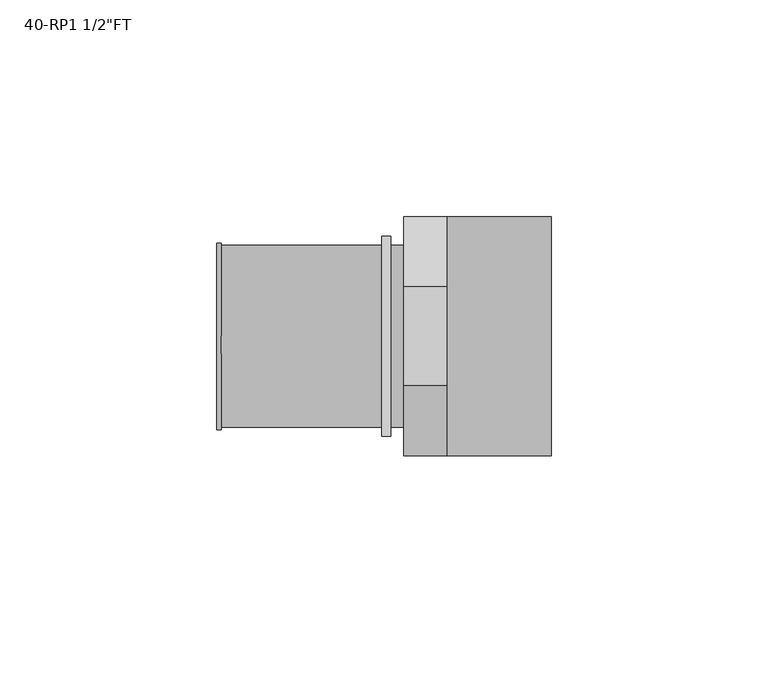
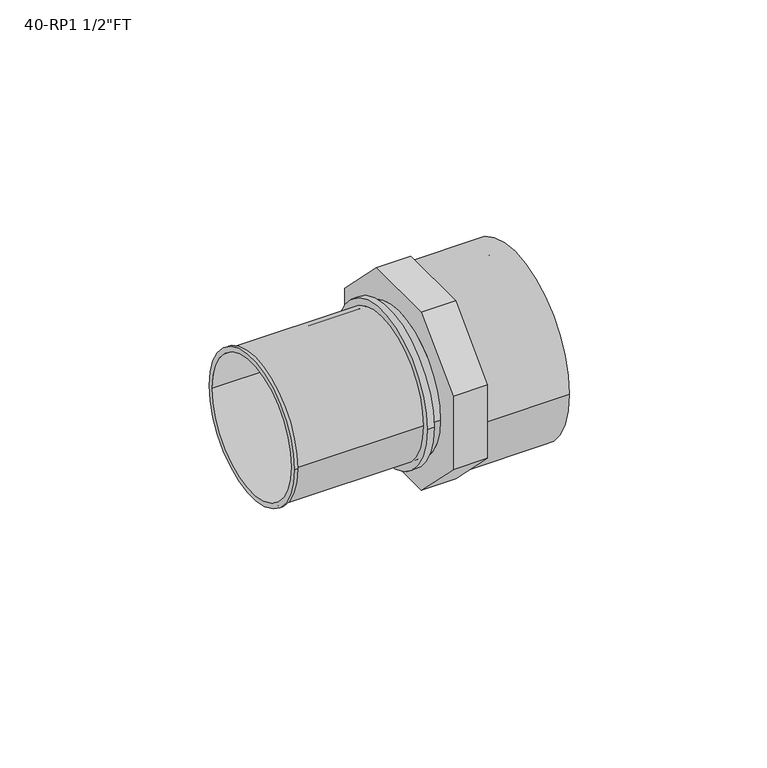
"""IFC4 building model written with IfcOpenShell, lengths in millimetres: pipe fitting geometry."""

from ifc_helpers import new_model, si_unit, point, frame, origin, origin_2d, place, context, project, spatial, polyline, circle_curve, trimmed, segment, composite_curve, outline, extrude, source, transform, mapped, element, save
from ifc_brep_helpers import plane_surface, cylinder_surface, revolved_surface, advanced_brep


def pipe_fitting_9d20a31b(model_context):
    return source(origin(), model_context, "Body", "SolidModel", [
        advanced_brep(
        [(-8.0, -21.0, 0.0), (-8.0, 21.0, 0.0), (8.0, -21.0, 0.0), (8.0, 21.0, 0.0), (-5.0, -21.0, 0.0), (-5.0, 21.0, 0.0), (5.0, 21.0, 0.0), (5.0, -21.0, 0.0), (-5.0, -27.5, 11.390873), (-5.0, -11.390873, 27.5), (-5.0, 11.390873, 27.5), (-5.0, 27.5, 11.390873), (-5.0, 27.5, -11.390873), (-5.0, 11.390873, -27.5), (-5.0, -11.390873, -27.5), (-5.0, -27.5, -11.390873), (5.0, -27.5, 11.390873), (5.0, -27.5, -11.390873), (5.0, -11.390873, -27.5), (5.0, 11.390873, -27.5), (5.0, 27.5, -11.390873), (5.0, 27.5, 11.390873), (5.0, 11.390873, 27.5), (5.0, -11.390873, 27.5)],
        [
            (0, 1, circle_curve(frame((-8.0, 0.0, 0.0), z_axis=(-1.0, 0.0, 0.0), x_axis=(0.0, 1.0, 0.0)), 21.0)),
            (1, 0, circle_curve(frame((-8.0, 0.0, 0.0), z_axis=(-1.0, 0.0, 0.0), x_axis=(0.0, 1.0, 0.0)), 21.0)),
            (2, 3, circle_curve(frame((8.0, 0.0, 0.0), z_axis=(1.0, 0.0, 0.0), x_axis=(0.0, 1.0, 0.0)), 21.0)),
            (3, 2, circle_curve(frame((8.0, 0.0, 0.0), z_axis=(1.0, 0.0, 0.0), x_axis=(0.0, 1.0, 0.0)), 21.0)),
            (0, 4),
            (4, 5, circle_curve(frame((-5.0, 0.0, 0.0), z_axis=(-1.0, 0.0, 0.0), x_axis=(0.0, 1.0, 0.0)), 21.0)),
            (5, 1),
            (3, 6),
            (6, 7, circle_curve(frame((5.0, 0.0, 0.0), z_axis=(1.0, 0.0, 0.0), x_axis=(0.0, 1.0, 0.0)), 21.0)),
            (7, 2),
            (5, 4, circle_curve(frame((-5.0, 0.0, 0.0), z_axis=(-1.0, 0.0, 0.0), x_axis=(0.0, 1.0, 0.0)), 21.0)),
            (7, 6, circle_curve(frame((5.0, 0.0, 0.0), z_axis=(1.0, 0.0, 0.0), x_axis=(0.0, 1.0, 0.0)), 21.0)),
            (8, 9),
            (9, 10),
            (10, 11),
            (11, 12),
            (12, 13),
            (13, 14),
            (14, 15),
            (15, 8),
            (16, 17),
            (17, 18),
            (18, 19),
            (19, 20),
            (20, 21),
            (21, 22),
            (22, 23),
            (23, 16),
            (8, 16),
            (23, 9),
            (22, 10),
            (21, 11),
            (20, 12),
            (19, 13),
            (18, 14),
            (17, 15),
        ],
        [
            plane_surface(frame((-8.0, 0.0, 0.0), z_axis=(-1.0, 0.0, 0.0), x_axis=(0.0, 0.0, 1.0))),
            plane_surface(frame((8.0, 0.0, 0.0), z_axis=(1.0, 0.0, 0.0), x_axis=(0.0, 0.0, 1.0))),
            cylinder_surface(frame((-8.0, 0.0, 0.0), z_axis=(-1.0, 0.0, 0.0), x_axis=(0.0, 1.0, 0.0)), 21.0),
            plane_surface(frame((-5.0, 0.0, 0.0), z_axis=(-1.0, 0.0, 0.0), x_axis=(0.0, 0.0, 1.0))),
            plane_surface(frame((5.0, 0.0, 0.0), z_axis=(1.0, 0.0, 0.0), x_axis=(0.0, 0.0, 1.0))),
            plane_surface(frame((-5.0, -27.5, 11.390873), z_axis=(0.0, -0.7071067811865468, 0.7071067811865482), x_axis=(1.0, 0.0, 0.0))),
            plane_surface(frame((-5.0, -11.390873, 27.5), z_axis=(0.0, 0.0, 1.0), x_axis=(1.0, 0.0, 0.0))),
            plane_surface(frame((-5.0, 11.390873, 27.5), z_axis=(0.0, 0.7071067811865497, 0.7071067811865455), x_axis=(1.0, 0.0, 0.0))),
            plane_surface(frame((-5.0, 27.5, 11.390873), z_axis=(0.0, 1.0, 0.0), x_axis=(1.0, 0.0, 0.0))),
            plane_surface(frame((-5.0, 27.5, -11.390873), z_axis=(0.0, 0.7071067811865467, -0.7071067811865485), x_axis=(1.0, 0.0, 0.0))),
            plane_surface(frame((-5.0, 11.390873, -27.5), z_axis=(0.0, 0.0, -1.0), x_axis=(1.0, 0.0, 0.0))),
            plane_surface(frame((-5.0, -11.390873, -27.5), z_axis=(0.0, -0.7071067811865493, -0.7071067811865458), x_axis=(1.0, 0.0, 0.0))),
            plane_surface(frame((-5.0, -27.5, -11.390873), z_axis=(0.0, -1.0, 0.0), x_axis=(1.0, 0.0, 0.0))),
        ],
        [
            (0, [[1, 2]]),
            (1, [[3, 4]]),
            (2, [[-1, 5, 6, 7]]),
            (2, [[-4, 8, 9, 10]]),
            (2, [[-2, -7, 11, -5]]),
            (2, [[-3, -10, 12, -8]]),
            (3, [[13, 14, 15, 16, 17, 18, 19, 20], [-6, -11]]),
            (4, [[21, 22, 23, 24, 25, 26, 27, 28], [-9, -12]]),
            (5, [[-13, 29, -28, 30]]),
            (6, [[-14, -30, -27, 31]]),
            (7, [[-15, -31, -26, 32]]),
            (8, [[-16, -32, -25, 33]]),
            (9, [[-17, -33, -24, 34]]),
            (10, [[-18, -34, -23, 35]]),
            (11, [[-19, -35, -22, 36]]),
            (12, [[-20, -36, -21, -29]]),
        ],
    ),
        advanced_brep(
        [(-48.0, -21.5, 0.0), (-48.0, 21.5, 0.0), (-48.0, -20.0, 0.0), (-48.0, 20.0, 0.0), (-10.0, -21.0, 0.0), (-10.0, 21.0, 0.0), (-10.0, -20.0, 0.0), (-10.0, 20.0, 0.0), (-47.0, 21.0, 0.0), (-47.0, -21.0, 0.0), (-47.0, -21.5, 0.0), (-47.0, 21.5, 0.0)],
        [
            (0, 1, circle_curve(frame((-48.0, 0.0, 0.0), z_axis=(-1.0, 0.0, 0.0), x_axis=(0.0, 1.0, 0.0)), 21.5)),
            (1, 0, circle_curve(frame((-48.0, 0.0, 0.0), z_axis=(-1.0, 0.0, 0.0), x_axis=(0.0, 1.0, 0.0)), 21.5)),
            (2, 3, circle_curve(frame((-48.0, 0.0, 0.0), z_axis=(1.0, 0.0, 0.0), x_axis=(0.0, 1.0, 0.0)), 20.0)),
            (3, 2, circle_curve(frame((-48.0, 0.0, 0.0), z_axis=(1.0, 0.0, 0.0), x_axis=(0.0, 1.0, 0.0)), 20.0)),
            (4, 5, circle_curve(frame((-10.0, 0.0, 0.0), z_axis=(1.0, 0.0, 0.0), x_axis=(0.0, 1.0, 0.0)), 21.0)),
            (5, 4, circle_curve(frame((-10.0, 0.0, 0.0), z_axis=(1.0, 0.0, 0.0), x_axis=(0.0, 1.0, 0.0)), 21.0)),
            (6, 7, circle_curve(frame((-10.0, 0.0, 0.0), z_axis=(-1.0, 0.0, 0.0), x_axis=(0.0, 1.0, 0.0)), 20.0)),
            (7, 6, circle_curve(frame((-10.0, 0.0, 0.0), z_axis=(-1.0, 0.0, 0.0), x_axis=(0.0, 1.0, 0.0)), 20.0)),
            (2, 6),
            (7, 3),
            (5, 8),
            (8, 9, circle_curve(frame((-47.0, 0.0, 0.0), z_axis=(1.0, 0.0, 0.0), x_axis=(0.0, 1.0, 0.0)), 21.0)),
            (9, 4),
            (9, 8, circle_curve(frame((-47.0, 0.0, 0.0), z_axis=(1.0, 0.0, 0.0), x_axis=(0.0, 1.0, 0.0)), 21.0)),
            (10, 11, circle_curve(frame((-47.0, 0.0, 0.0), z_axis=(1.0, 0.0, 0.0), x_axis=(0.0, 1.0, 0.0)), 21.5)),
            (11, 10, circle_curve(frame((-47.0, 0.0, 0.0), z_axis=(1.0, 0.0, 0.0), x_axis=(0.0, 1.0, 0.0)), 21.5)),
            (0, 10),
            (11, 1),
        ],
        [
            plane_surface(frame((-48.0, 0.0, 0.0), z_axis=(-1.0, 0.0, 0.0), x_axis=(0.0, 0.0, 1.0))),
            plane_surface(frame((-10.0, 0.0, 0.0), z_axis=(1.0, 0.0, 0.0), x_axis=(0.0, 0.0, 1.0))),
            revolved_surface(polyline([(-10.0, 20.0, 0.0), (-48.0, 20.0, 0.0)]), (-48.0, 0.0, 0.0), (1.0, 0.0, 0.0)),
            cylinder_surface(frame((-48.0, 0.0, 0.0), z_axis=(-1.0, 0.0, 0.0), x_axis=(0.0, 1.0, 0.0)), 21.0),
            plane_surface(frame((-47.0, 0.0, 0.0), z_axis=(1.0, 0.0, 0.0), x_axis=(0.0, 0.0, 1.0))),
            cylinder_surface(frame((-48.0, 0.0, 0.0), z_axis=(-1.0, 0.0, 0.0), x_axis=(0.0, 1.0, 0.0)), 21.5),
        ],
        [
            (0, [[1, 2], [3, 4]]),
            (1, [[5, 6], [7, 8]]),
            (2, [[-3, 9, -8, 10]]),
            (2, [[-4, -10, -7, -9]]),
            (3, [[-6, 11, 12, 13]]),
            (3, [[-5, -13, 14, -11]]),
            (4, [[15, 16], [-12, -14]]),
            (5, [[-1, 17, -16, 18]]),
            (5, [[-2, -18, -15, -17]]),
        ],
    ),
        extrude(outline(composite_curve([segment(trimmed(circle_curve(origin_2d(), 27.5), [point((-27.5, 0.0))], [point((27.5, 0.0))], False, "CARTESIAN"), True, "CONTINUOUS"), segment(trimmed(circle_curve(origin_2d(), 27.5), [point((27.5, 0.0))], [point((-27.5, 0.0))], False, "CARTESIAN"), True, "CONTINUOUS")], self_intersect=False), holes=[composite_curve([segment(trimmed(circle_curve(origin_2d(), 22.5), [point((-22.5, 0.0))], [point((22.5, 0.0))], True, "CARTESIAN"), True, "CONTINUOUS"), segment(trimmed(circle_curve(origin_2d(), 22.5), [point((22.5, 0.0))], [point((-22.5, 0.0))], True, "CARTESIAN"), True, "CONTINUOUS")], self_intersect=False)]), frame((5.0, 0.0, 0.0), z_axis=(1.0, 0.0, 0.0), x_axis=(0.0, 1.0, 0.0)), (0.0, 0.0, 1.0), 24.0),
        extrude(outline(composite_curve([segment(trimmed(circle_curve(origin_2d(), 23.0), [point((-23.0, 0.0))], [point((23.0, 0.0))], False, "CARTESIAN"), True, "CONTINUOUS"), segment(trimmed(circle_curve(origin_2d(), 23.0), [point((23.0, 0.0))], [point((-23.0, 0.0))], False, "CARTESIAN"), True, "CONTINUOUS")], self_intersect=False), holes=[composite_curve([segment(trimmed(circle_curve(origin_2d(), 20.0), [point((-20.0, 0.0))], [point((20.0, 0.0))], True, "CARTESIAN"), True, "CONTINUOUS"), segment(trimmed(circle_curve(origin_2d(), 20.0), [point((20.0, 0.0))], [point((-20.0, 0.0))], True, "CARTESIAN"), True, "CONTINUOUS")], self_intersect=False)]), frame((-10.0, 0.0, 0.0), z_axis=(1.0, 0.0, 0.0), x_axis=(0.0, 1.0, 0.0)), (0.0, 0.0, 1.0), 2.0),
    ])


if __name__ == "__main__":
    model = new_model("IFC4")
    model_context = context("Model", 3, world=origin())
    ifc_project = project(units=[si_unit("LENGTHUNIT", "METRE", prefix="MILLI")], contexts=[model_context])
    site = spatial("IfcSite", under=ifc_project)
    building = spatial("IfcBuilding", under=site)
    placement = place(None, origin())
    pipe_fitting_shape = pipe_fitting_9d20a31b(model_context)
    element("IfcPipeFitting", 1, ObjectType="SuperPipe_AdapterFT_SPress_RP : 40-RP1 1/2\"FT", at=placement, inside=building, context=model_context, shape_type="MappedRepresentation", body=[
        mapped(pipe_fitting_shape, transform((0.0, 0.0, 0.0), x_axis=(1.0, 0.0, 0.0), y_axis=(0.0, 1.0, 0.0), z_axis=(0.0, 0.0, 1.0))),
    ])
    save(model, "model.ifc")
